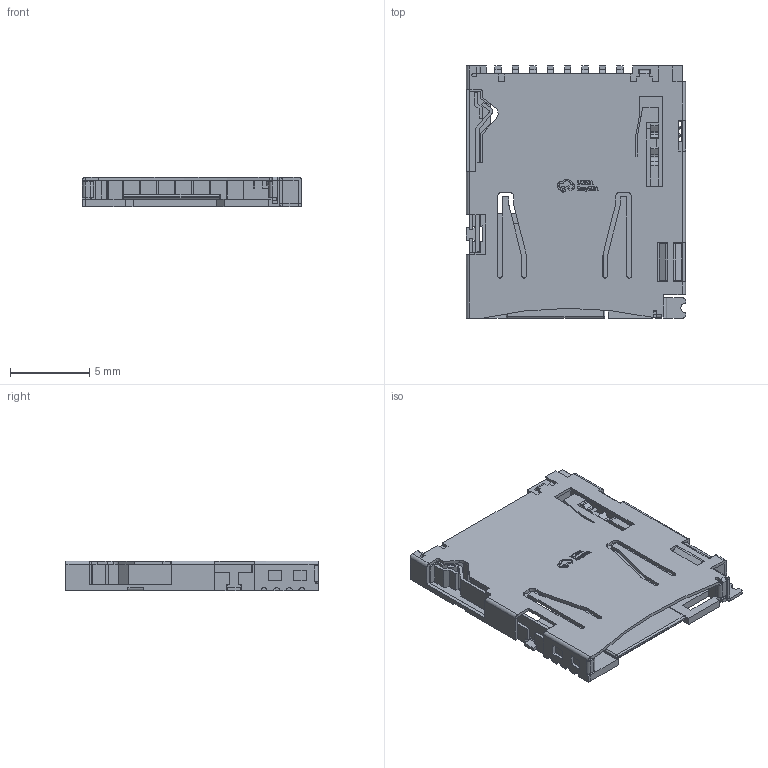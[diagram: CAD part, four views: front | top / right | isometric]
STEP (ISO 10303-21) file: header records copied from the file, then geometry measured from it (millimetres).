
FILE_DESCRIPTION (( 'STEP AP214' ), '1' );
FILE_NAME ('SD-SMD_DM3AT-SF-PEJM5.step', '2022-07-12T15:15:43', ( '' ), ( '' ), 'SwSTEP 2.0', 'SolidWorks 2020', '' );
FILE_SCHEMA (( 'AUTOMOTIVE_DESIGN' ));
Length unit declared in the file: millimetre
Products named in the file (1): SD-SMD_DM3AT-SF-PEJM5
Bounding box: 13.85 x 15.96 x 1.89 mm (x, y, z)
Volume: 181.8 mm3; surface area: 1160.9 mm2
Topology: 8 solids, 8 shells, 936 faces, 2549 edges, 1642 vertices
Faces by surface type: plane 687, cylinder 131, bspline 114, sphere 4
Entity records: 42129 total; most frequent: CARTESIAN_POINT 8718, ORIENTED_EDGE 5088, DIRECTION 4218, EDGE_CURVE 2544, VECTOR 2044, LINE 2044, VERTEX_POINT 1640, AXIS2_PLACEMENT_3D 1087
